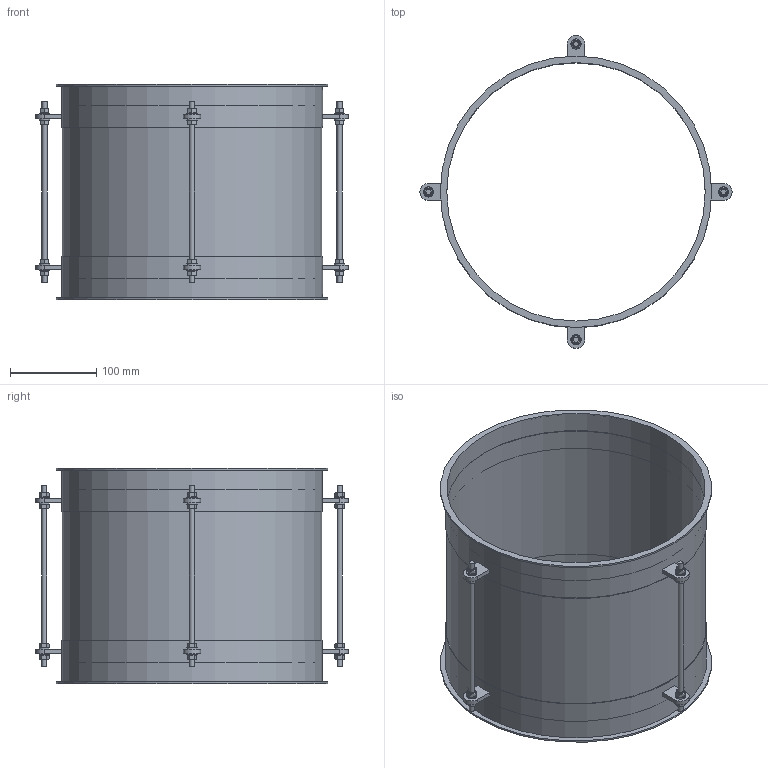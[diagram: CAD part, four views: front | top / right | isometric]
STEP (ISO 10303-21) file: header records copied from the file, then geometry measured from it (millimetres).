
FILE_DESCRIPTION((''),'2;1');
FILE_NAME('U:\Wolfgang\Marcel-3D\fertig\Kapitel 4\3011042.stp','2011-04-21T08:22:07',('TK1'),(''),'Autodesk Inventor 2010','Autodesk Inventor 2010','');
FILE_SCHEMA(('AUTOMOTIVE_DESIGN { 1 0 10303 214 1 1 1 1 }'));
Length unit declared in the file: millimetre
Products named in the file (6): 3011042; 3011042-1; 3011042-2; 2011042-3; ISO 4032 M6; ISO 7089 6 - 140 HV
Assembly tree (39 placements, depth 2):
  3011042
    3011042-1  x2
    3011042-2
    2011042-3  x4
    ISO 4032 M6  x16
    ISO 7089 6 - 140 HV  x16
Bounding box: 362.34 x 363 x 250 mm (x, y, z)
Volume: 323936.3 mm3; surface area: 636543.2 mm2
Topology: 45 solids, 45 shells, 362 faces, 758 edges, 490 vertices
Faces by surface type: plane 218, cylinder 64, cone 64, bspline 16
Full cylindrical faces by diameter (mm): 6 x12, 6.4 x16, 12 x16, 300 x3, 301.5 x3, 303 x2, 315 x2
Entity records: 1989 total; most frequent: DIRECTION 346, CARTESIAN_POINT 332, ORIENTED_EDGE 212, AXIS2_PLACEMENT_3D 148, EDGE_CURVE 106, EDGE_LOOP 100, VERTEX_POINT 80, FACE_OUTER_BOUND 60
